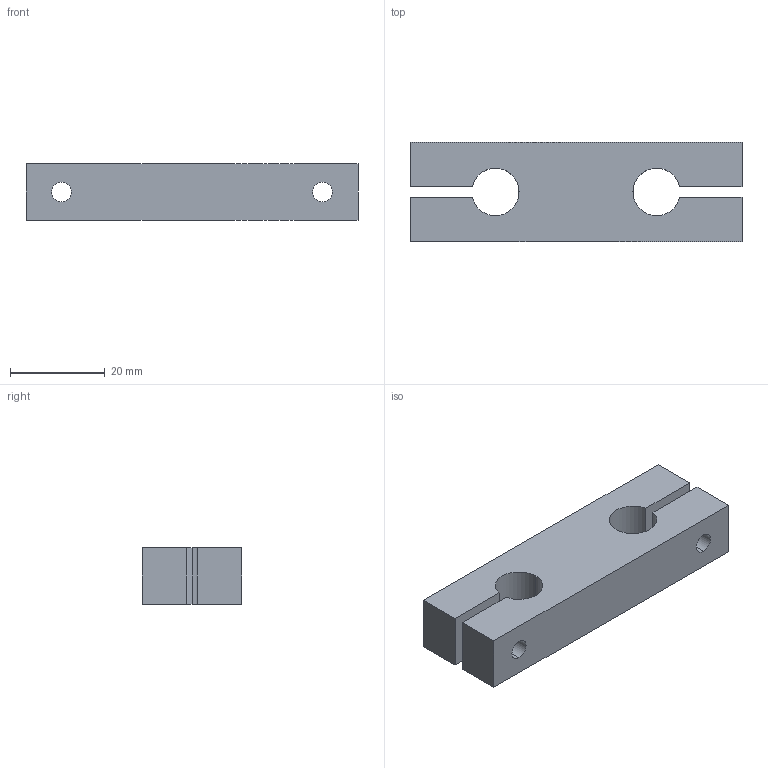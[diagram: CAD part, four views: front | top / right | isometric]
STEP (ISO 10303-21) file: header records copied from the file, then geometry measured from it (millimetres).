
FILE_DESCRIPTION (( 'STEP AP214' ), '1' );
FILE_NAME ('KTB-10.step', '2020-03-04T13:38:20', ( '' ), ( '' ), 'SwSTEP 2.0', 'SolidWorks 2019', '' );
FILE_SCHEMA (( 'AUTOMOTIVE_DESIGN' ));
Length unit declared in the file: millimetre
Products named in the file (1): KTB-10
Bounding box: 70 x 21 x 12 mm (x, y, z)
Volume: 13764.6 mm3; surface area: 6572.4 mm2
Topology: 1 solids, 1 shells, 35 faces, 89 edges, 57 vertices
Faces by surface type: cylinder 17, plane 14, cone 4
Entity records: 1147 total; most frequent: DIRECTION 195, CARTESIAN_POINT 180, ORIENTED_EDGE 174, EDGE_CURVE 87, AXIS2_PLACEMENT_3D 72, VERTEX_POINT 57, LINE 51, VECTOR 51
